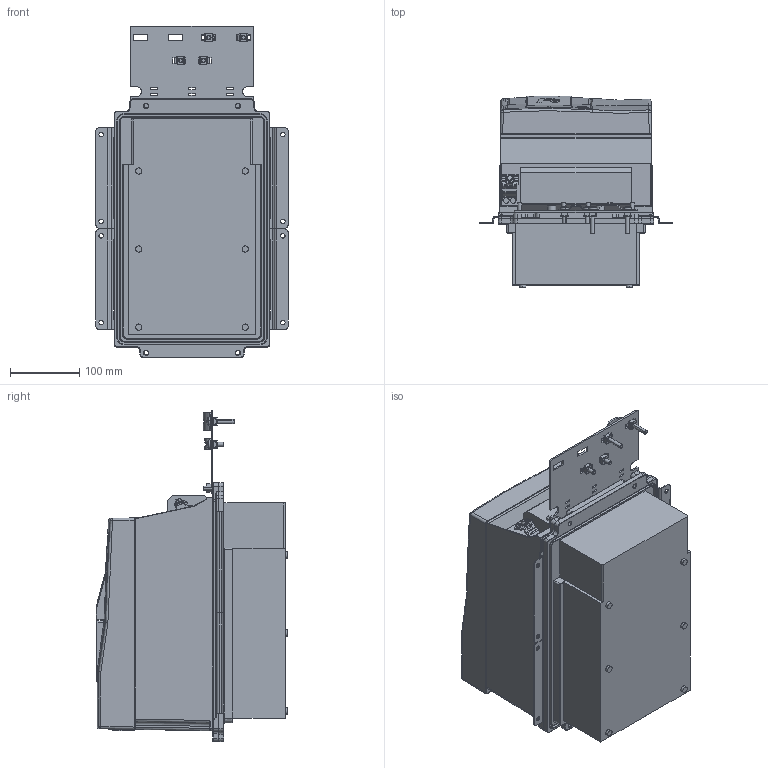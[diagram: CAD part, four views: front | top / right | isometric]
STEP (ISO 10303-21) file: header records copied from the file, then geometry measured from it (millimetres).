
FILE_DESCRIPTION (( 'STEP AP214' ), '1' );
FILE_NAME ('F6-4TR5-A011.STEP', '2020-12-08T13:06:14', ( '' ), ( '' ), 'SwSTEP 2.0', 'SolidWorks 2019', '' );
FILE_SCHEMA (( 'AUTOMOTIVE_DESIGN' ));
Length unit declared in the file: millimetre
Products named in the file (13): 10059764_000_Blindabdeckung (Kundenmodell); 10061644_000_Deckel (Kundenmodell); 10044453_000_Schirmung (Kundenmodell); 10045811_000_Leistungsteil TR5 (Kundenmodell); 10032600_000_Kundenmodell; 10061787_000; 10058413_000; 10058448_000; F6-4TR5-A011; 10061645_000; 10063070_000; 10059765_000; 10035735_000_Kundenmodell
Assembly tree (12 placements, depth 4):
  F6-4TR5-A011
    10045811_000_Leistungsteil TR5 (Kundenmodell)
      10061787_000
    10032600_000_Kundenmodell
      10061644_000_Deckel (Kundenmodell)
        10061645_000
      10058448_000
    10035735_000_Kundenmodell
      10059764_000_Blindabdeckung (Kundenmodell)
        10059765_000
      10058413_000
    10044453_000_Schirmung (Kundenmodell)
      10063070_000
Bounding box: 277 x 276.2 x 477.5 mm (x, y, z)
Volume: 17536057.2 mm3; surface area: 952098.5 mm2
Topology: 15 solids, 36 shells, 3307 faces, 8728 edges, 5511 vertices
Faces by surface type: plane 1466, cylinder 964, bspline 537, torus 166, cone 126, sphere 48
Entity records: 124955 total; most frequent: CARTESIAN_POINT 45788, ORIENTED_EDGE 17338, DIRECTION 15074, EDGE_CURVE 8669, VERTEX_POINT 5509, AXIS2_PLACEMENT_3D 5096, VECTOR 4882, LINE 4882
